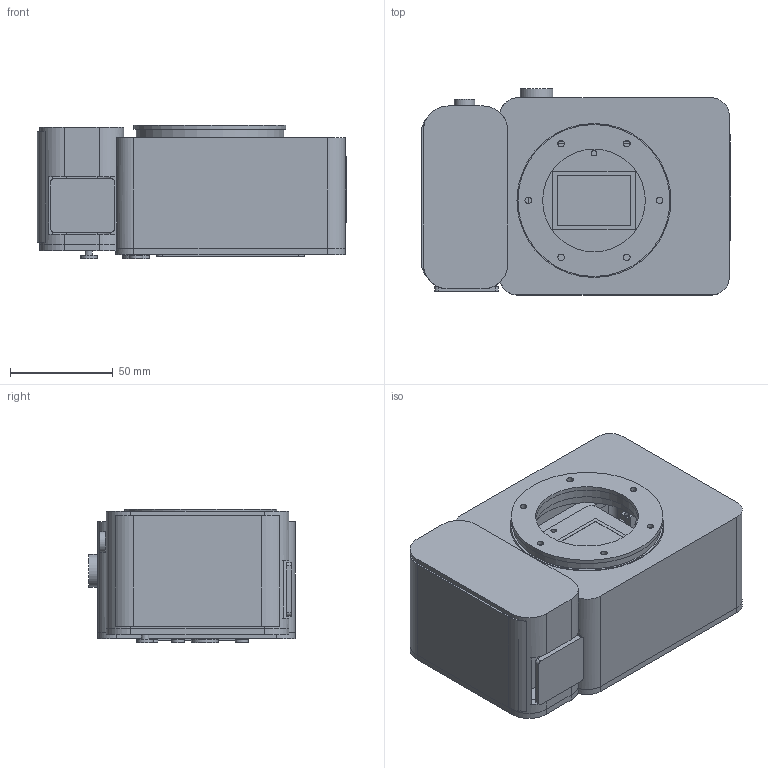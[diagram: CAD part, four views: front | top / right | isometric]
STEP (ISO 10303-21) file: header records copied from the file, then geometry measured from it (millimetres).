
FILE_DESCRIPTION(('Open CASCADE Model'),'2;1');
FILE_NAME('Open CASCADE Shape Model','2026-11-05T02:23:56',('Author'),( 'Open CASCADE'),'Open CASCADE STEP processor 7.8','Open CASCADE 7.8' ,'Unknown');
FILE_SCHEMA(('AUTOMOTIVE_DESIGN { 1 0 10303 214 1 1 1 1 }'));
Length unit declared in the file: millimetre
Products named in the file (31): HassleFree_FF1_E_concept; 01_front_shell; 02_grip_wrap; 03_rear_shell; 04_load_bearing_chassis; 27_removable_sensor_bridge; 28_removable_control_mount_rails; 29_control_board_mount_spacers; 05_humi_common_interface; 06_e_mount_cartridge_body; 07_e_mount_reference_flange; 10_independent_sensor_carrier; 11_sensor_package_placeholder; 12_sensor_active_36x24; 13_three_point_sensor_spacers; 14_heat_spreader_placeholder; 32_thermal_adjustable_landing; 33_thermal_clamp_screw_reservation; 34_thermal_clamp_nut_reservation; 15_main_processing_board_envelope; 16_control_board_provisional_envelope; 26_control_board_component_envelopes; 17_replaceable_battery_envelope; 18_battery_service_door; 19_removable_storage_envelope; 20_storage_service_door; 21_display_module_envelope; 22_rear_buttons; 23_shutter_button; 24_top_control_dial; 25_sensor_datum_mark
Assembly tree (30 placements, depth 2):
  HassleFree_FF1_E_concept
    01_front_shell
    02_grip_wrap
    03_rear_shell
    04_load_bearing_chassis
    27_removable_sensor_bridge
    28_removable_control_mount_rails
    29_control_board_mount_spacers
    05_humi_common_interface
    06_e_mount_cartridge_body
    07_e_mount_reference_flange
    10_independent_sensor_carrier
    11_sensor_package_placeholder
    12_sensor_active_36x24
    13_three_point_sensor_spacers
    14_heat_spreader_placeholder
    32_thermal_adjustable_landing
    33_thermal_clamp_screw_reservation
    34_thermal_clamp_nut_reservation
    15_main_processing_board_envelope
    16_control_board_provisional_envelope
    26_control_board_component_envelopes
    17_replaceable_battery_envelope
    18_battery_service_door
    19_removable_storage_envelope
    20_storage_service_door
    21_display_module_envelope
    22_rear_buttons
    23_shutter_button
    24_top_control_dial
    25_sensor_datum_mark
Bounding box: 150.7 x 100.4 x 65 mm (x, y, z)
Volume: 326417.7 mm3; surface area: 237159.6 mm2
Topology: 42 solids, 42 shells, 582 faces, 1442 edges, 960 vertices
Faces by surface type: plane 376, cylinder 206
Full cylindrical faces by diameter (mm): 1 x14, 2.5 x1, 2.6 x9, 2.7 x34, 3 x3, 3.2 x24, 3.4 x1, 3.6 x4, 4 x1, 4.2 x1, 5 x3, 5.4 x4, 5.6 x2, 6 x4, 6.4 x3, 8 x1, 10 x1, 13 x1, 16 x1, 50 x2, 57 x2, 72 x1, 74 x2, 75 x1
Entity records: 37860 total; most frequent: CARTESIAN_POINT 7039, DIRECTION 5804, LINE 3442, VECTOR 3442, ORIENTED_EDGE 2884, PCURVE 2884, DEFINITIONAL_REPRESENTATION 2884, EDGE_CURVE 1442
